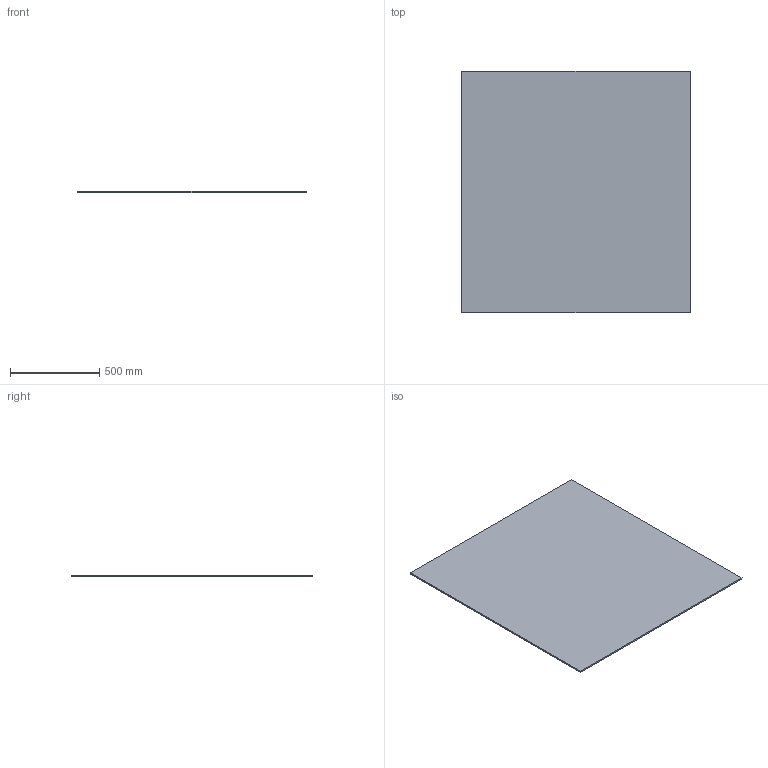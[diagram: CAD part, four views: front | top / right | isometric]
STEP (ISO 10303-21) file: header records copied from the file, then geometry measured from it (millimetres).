
FILE_DESCRIPTION(/* description */ (''),/* implementation_level */ '2;1');
FILE_NAME(/* name */ 'Pos163-Gelaagd glas 4.4.1, matte folie-Glas-2st',/* time_stamp */ '2024-08-06T11:49:43+02:00',/* author */ (''),/* organization */ (''),/* preprocessor_version */ 'ST-DEVELOPER v16.5',/* originating_system */ 'HiCAD 2024 2901.2 Build 361',/* authorisation */ '');
FILE_SCHEMA (('AUTOMOTIVE_DESIGN { 1 0 10303 214 1 1 1 1 }'));
Length unit declared in the file: millimetre
Products named in the file (1): Pos163-Gelaagd glas 4.4.1, matte folie-Glas-2st
Bounding box: 1280 x 1350 x 8.38 mm (x, y, z)
Volume: 14480640 mm3; surface area: 3500078.8 mm2
Topology: 1 solids, 1 shells, 6 faces, 12 edges, 8 vertices
Faces by surface type: plane 6
Entity records: 295 total; most frequent: CARTESIAN_POINT 26, PRESENTATION_STYLE_ASSIGNMENT 25, COLOUR_RGB 25, DRAUGHTING_PRE_DEFINED_CURVE_FONT 24, CURVE_STYLE 24, OVER_RIDING_STYLED_ITEM 24, ORIENTED_EDGE 24, DIRECTION 24
